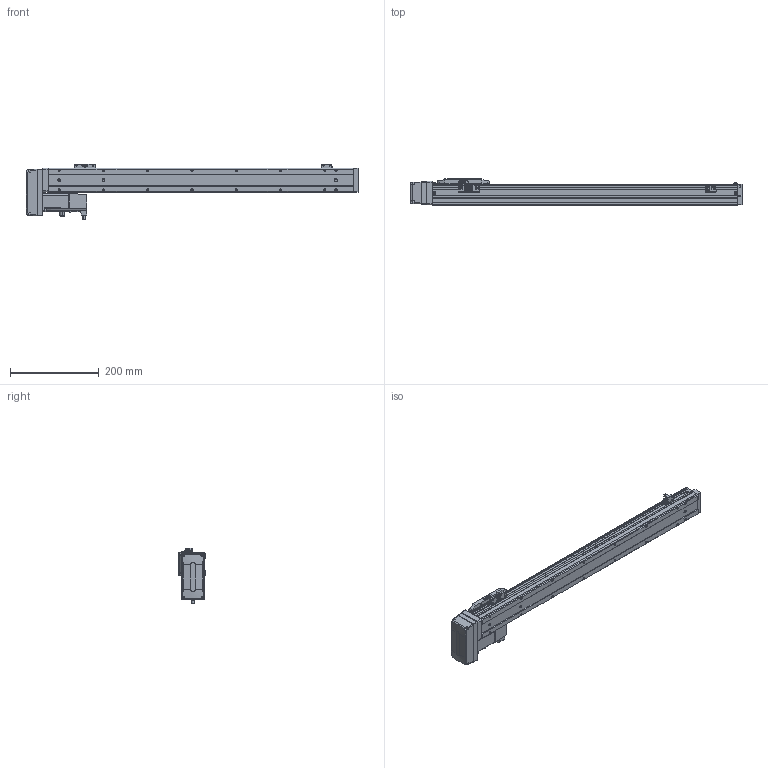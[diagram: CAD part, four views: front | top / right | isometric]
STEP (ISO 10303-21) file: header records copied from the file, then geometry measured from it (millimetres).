
FILE_DESCRIPTION (( 'STEP AP203' ), '1' );
FILE_NAME ('CTH5-L10-S550-BR-C10(¼ò).STEP', '2023-02-04T02:28:18', ( '' ), ( '' ), 'SwSTEP 2.0', 'SolidWorks 2018', '' );
FILE_SCHEMA (( 'CONFIG_CONTROL_DESIGN' ));
Length unit declared in the file: millimetre
Products named in the file (22): CTH5覜茼え; T10-p1; 嫖萇羲壽郪磁1; 内六角圆柱头螺钉M3-2; CTH5-BL-T10_body5; CTH5ヶ耜啣(潠); M3｡｣; CTH5-L10-S550-BR-C10(潠); CTH5菁釱-L690; hex nuts, style 1-grades ab gb_GB_FASTENER_NUT_SNAB1 M3-N; CTH100W假蚾啣; CTH5綴耜啣; CTH嫖萇羲壽假蚾啣; CTH5耜晚蹟隊; CTH5耜蚾蟀諉啣(潠); PM-Y45; CTH5耜晚蹟隊-1; CTH5賑怢; CTH5耜蚾欶; 葩璃 蚾饜极16^CTH5-L10-S550-BR-C10(潠); 葩璃 蚾饜极13^CTH8-L10-S50-BM-C40(潠)1; 100W萇儂
Assembly tree (37 placements, depth 4):
  CTH5-L10-S550-BR-C10(潠)
    CTH5綴耜啣
    CTH5賑怢
    CTH5ヶ耜啣(潠)
    CTH5菁釱-L690
    CTH5耜晚蹟隊  x2
    嫖萇羲壽郪磁1  x2
      CTH嫖萇羲壽假蚾啣
      PM-Y45
      M3｡｣
      内六角圆柱头螺钉M3-2
      hex nuts, style 1-grades ab gb_GB_FASTENER_NUT_SNAB1 M3-N
    CTH5覜茼え
    葩璃 蚾饜极13^CTH8-L10-S50-BM-C40(潠)1
      CTH嫖萇羲壽假蚾啣
      PM-Y45
      内六角圆柱头螺钉M3-2  x2
      M3｡｣  x2
      hex nuts, style 1-grades ab gb_GB_FASTENER_NUT_SNAB1 M3-N  x2
    CTH5耜晚蹟隊-1  x4
    葩璃 蚾饜极16^CTH5-L10-S550-BR-C10(潠)
      CTH5耜蚾蟀諉啣(潠)
      CTH5耜蚾欶
        CTH5-BL-T10_body5
      100W萇儂
        T10-p1
      CTH100W假蚾啣
Bounding box: 750 x 60 x 126.31 mm (x, y, z)
Volume: 1868291.7 mm3; surface area: 268323.3 mm2
Topology: 39 solids, 39 shells, 1619 faces, 4067 edges, 2624 vertices
Faces by surface type: plane 890, cylinder 472, cone 199, torus 40, bspline 18
Entity records: 37873 total; most frequent: CARTESIAN_POINT 7016, DIRECTION 5991, ORIENTED_EDGE 5758, EDGE_CURVE 2879, AXIS2_PLACEMENT_3D 2066, VECTOR 1859, LINE 1859, VERTEX_POINT 1852
